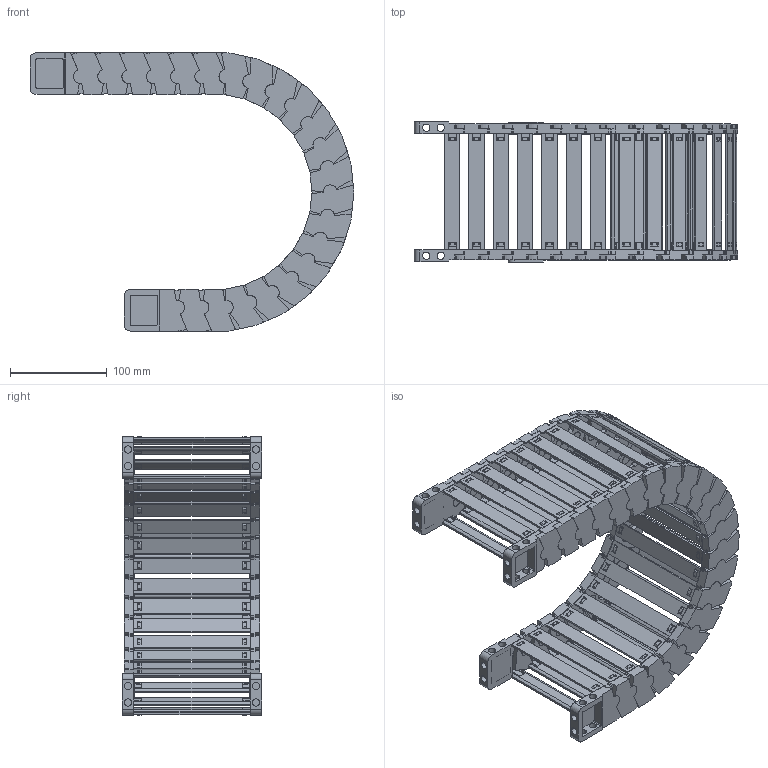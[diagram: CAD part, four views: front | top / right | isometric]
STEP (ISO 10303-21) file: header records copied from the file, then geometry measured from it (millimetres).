
FILE_DESCRIPTION((''),'2;1');
FILE_NAME('JY-35X120-R125_ASM','2022-05-06T19:08:43',('admin'),(''),'CREO PARAMETRIC BY PTC INC, 2021164','CREO PARAMETRIC BY PTC INC, 2021164','');
FILE_SCHEMA(('CONFIG_CONTROL_DESIGN','GEOMETRIC_VALIDATION_PROPERTIES_MIM'));
Length unit declared in the file: millimetre
Products named in the file (11): 35XL-L; 25-35XL-YP; 35XL-R; ASM0001_ASM; 35-LTT-A-L; 35-LTT-A-R; 35XL-LTT-A_ASM; 35-LTT-B-L; 35-LTT-B-R; 35XL-LTT-B_ASM; JY-35X120-R125_ASM
Assembly tree (36 placements, depth 3):
  JY-35X120-R125_ASM
    ASM0001_ASM  x22
      35XL-L
      25-35XL-YP
      35XL-R
    35XL-LTT-A_ASM
      35-LTT-A-L
      25-35XL-YP  x2
      35-LTT-A-R
    35XL-LTT-B_ASM
      35-LTT-B-L
      25-35XL-YP  x2
      35-LTT-B-R
Bounding box: 334.89 x 144.6 x 288.09 mm (x, y, z)
Volume: 792355.9 mm3; surface area: 498580.7 mm2
Topology: 96 solids, 96 shells, 4984 faces, 14582 edges, 9748 vertices
Faces by surface type: plane 3792, cylinder 1188, bspline 4
Entity records: 20898 total; most frequent: CARTESIAN_POINT 3249, ORIENTED_EDGE 2876, DIRECTION 2870, EDGE_CURVE 1438, VECTOR 1056, LINE 1056, VERTEX_POINT 964, AXIS2_PLACEMENT_3D 907
